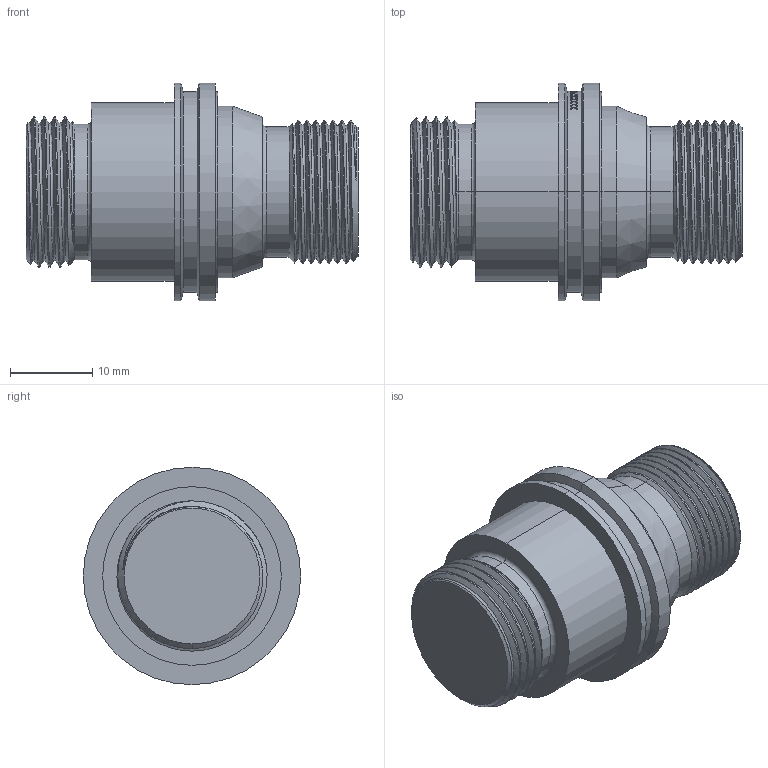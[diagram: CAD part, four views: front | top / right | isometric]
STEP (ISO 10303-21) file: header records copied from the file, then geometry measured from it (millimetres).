
FILE_DESCRIPTION (( 'STEP AP214' ), '1' );
FILE_NAME ('3DFSIK1008000A.STEP', '2018-06-14T14:18:38', ( 'tlc' ), ( 'Microsoft' ), 'SwSTEP 2.0', 'SolidWorks 2017', '' );
FILE_SCHEMA (( 'AUTOMOTIVE_DESIGN' ));
Length unit declared in the file: inch
Products named in the file (1): 3DFSIK1008000A
Bounding box: 40.35 x 26.42 x 26.42 mm (x, y, z)
Volume: 12473.9 mm3; surface area: 4087 mm2
Topology: 1 solids, 1 shells, 322 faces, 839 edges, 553 vertices
Faces by surface type: bspline 144, plane 92, cylinder 67, cone 15, torus 4
Entity records: 22376 total; most frequent: CARTESIAN_POINT 12297, ORIENTED_EDGE 1678, DIRECTION 849, EDGE_CURVE 839, VERTEX_POINT 553, B_SPLINE_CURVE_WITH_KNOTS 468, EDGE_LOOP 356, AXIS2_PLACEMENT_3D 346
